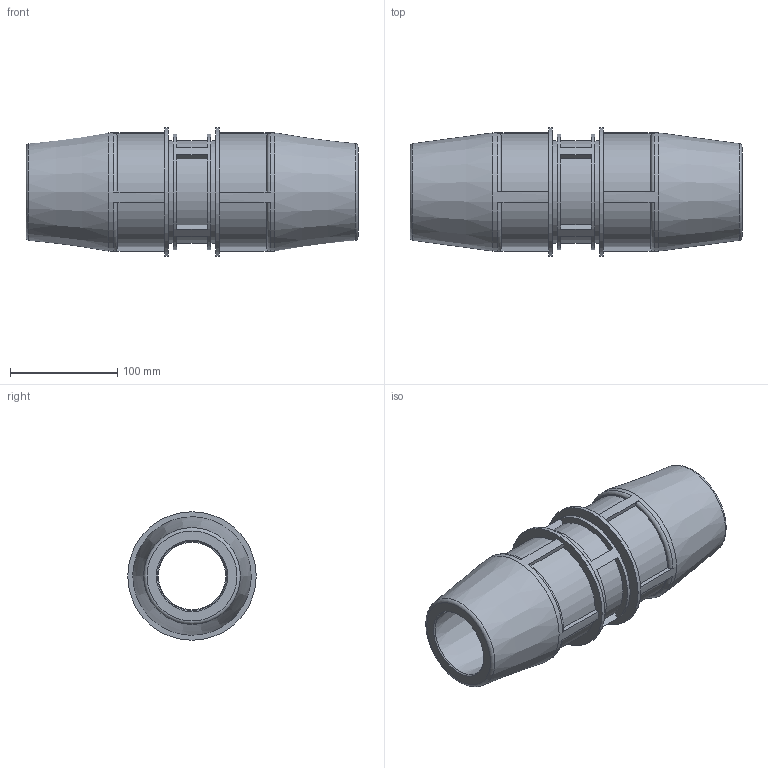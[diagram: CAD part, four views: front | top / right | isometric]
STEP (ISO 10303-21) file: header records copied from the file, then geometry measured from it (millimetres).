
FILE_DESCRIPTION(/* description */ ('PLASSON UNIVERSAL SLIP REPAIR COUPLER 60-64 SERIES 17'),/* implementation_level */ '2;1');
FILE_NAME(/* name */ 'C:\Dropbox\KIMPROJECTS-Inventor\99-16-3568-Processing\S1\17610\176100060064_196100060064.ipt.stp',/* time_stamp */ '2018-02-11T12:57:57+02:00',/* author */ ('KIM'),/* organization */ (''),/* preprocessor_version */ 'ST-DEVELOPER v15.6',/* originating_system */ 'Autodesk Inventor 2015',/* authorisation */ '');
FILE_SCHEMA (('AUTOMOTIVE_DESIGN { 1 0 10303 214 3 1 1 }'));
Length unit declared in the file: millimetre
Products named in the file (1): 176100060064_196100060064
Bounding box: 310 x 120 x 120 mm (x, y, z)
Volume: 1414506.7 mm3; surface area: 202153.7 mm2
Topology: 1 solids, 1 shells, 86 faces, 211 edges, 138 vertices
Faces by surface type: plane 50, cylinder 20, torus 10, cone 6
Full cylindrical faces by diameter (mm): 62.72 x1, 96 x2, 108 x1, 110.4 x2, 120 x2
Entity records: 2492 total; most frequent: DIRECTION 462, CARTESIAN_POINT 415, ORIENTED_EDGE 384, EDGE_CURVE 192, AXIS2_PLACEMENT_3D 183, VERTEX_POINT 136, EDGE_LOOP 116, LINE 96
